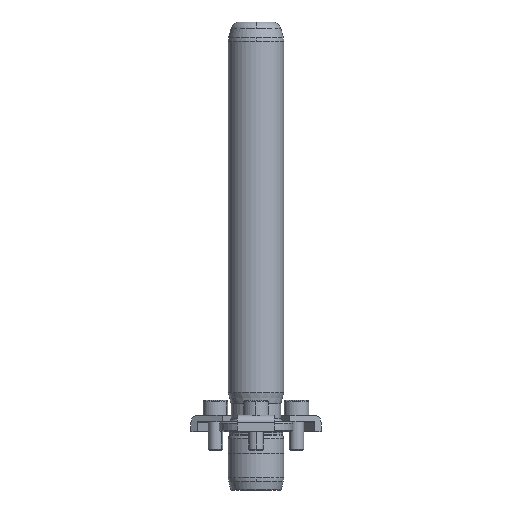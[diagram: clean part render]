
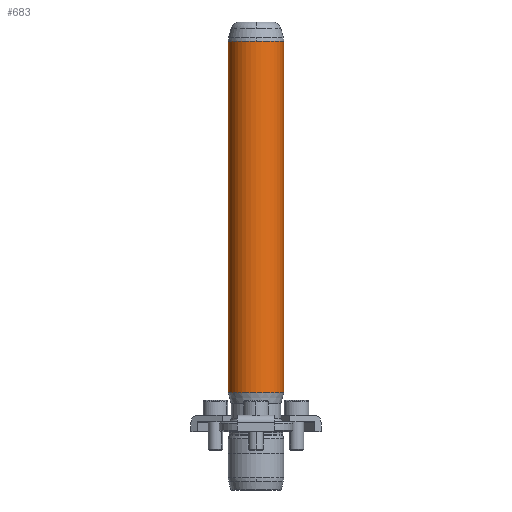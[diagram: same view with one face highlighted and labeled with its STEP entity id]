
A CAD part, front view. The second image highlights one B-rep face of the part: STEP entity #683.
In plain terms, the highlighted cylindrical face has radius 9.5 mm (diameter 19 mm), a partial arc.
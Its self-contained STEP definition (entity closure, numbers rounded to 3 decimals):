
#596=CARTESIAN_POINT('',(0.0,-9.5,133.342));
#597=VERTEX_POINT('',#596);
#624=CARTESIAN_POINT('',(-9.5,0.,133.342));
#625=VERTEX_POINT('',#624);
#633=CARTESIAN_POINT('',(0.0,0.,133.342));
#634=DIRECTION('',(0.0,0.0,1.0));
#635=DIRECTION('',(1.0,0.0,0.0));
#636=AXIS2_PLACEMENT_3D('',#633,#634,#635);
#637=CIRCLE('',#636,9.5);
#638=EDGE_CURVE('',#625,#597,#637,.T.);
#643=CARTESIAN_POINT('',(0.0,0.,73.321));
#644=DIRECTION('',(0.0,0.,1.0));
#645=DIRECTION('',(1.0,0.0,0.0));
#646=AXIS2_PLACEMENT_3D('',#643,#644,#645);
#647=CYLINDRICAL_SURFACE('',#646,9.5);
#648=CARTESIAN_POINT('',(9.5,0.,133.342));
#649=VERTEX_POINT('',#648);
#650=CARTESIAN_POINT('',(9.5,0.,13.3));
#651=VERTEX_POINT('',#650);
#652=CARTESIAN_POINT('',(9.5,0.,133.342));
#653=DIRECTION('',(0.0,0.0,-1.0));
#654=VECTOR('',#653,120.042);
#655=LINE('',#652,#654);
#656=EDGE_CURVE('',#649,#651,#655,.T.);
#657=ORIENTED_EDGE('',*,*,#656,.F.);
#658=CARTESIAN_POINT('',(0.0,0.,133.342));
#659=DIRECTION('',(0.0,0.0,1.0));
#660=DIRECTION('',(1.0,0.0,0.0));
#661=AXIS2_PLACEMENT_3D('',#658,#659,#660);
#662=CIRCLE('',#661,9.5);
#663=EDGE_CURVE('',#597,#649,#662,.T.);
#664=ORIENTED_EDGE('',*,*,#663,.F.);
#665=ORIENTED_EDGE('',*,*,#638,.F.);
#666=CARTESIAN_POINT('',(-9.5,0.,13.3));
#667=VERTEX_POINT('',#666);
#668=CARTESIAN_POINT('',(-9.5,0.,133.342));
#669=DIRECTION('',(0.0,0.0,-1.0));
#670=VECTOR('',#669,120.042);
#671=LINE('',#668,#670);
#672=EDGE_CURVE('',#625,#667,#671,.T.);
#673=ORIENTED_EDGE('',*,*,#672,.T.);
#674=CARTESIAN_POINT('',(0.0,0.,13.3));
#675=DIRECTION('',(0.0,0.0,1.0));
#676=DIRECTION('',(1.0,0.0,0.0));
#677=AXIS2_PLACEMENT_3D('',#674,#675,#676);
#678=CIRCLE('',#677,9.5);
#679=EDGE_CURVE('',#667,#651,#678,.T.);
#680=ORIENTED_EDGE('',*,*,#679,.T.);
#681=EDGE_LOOP('',(#657,#664,#665,#673,#680));
#682=FACE_OUTER_BOUND('',#681,.T.);
#683=ADVANCED_FACE('',(#682),#647,.T.);
